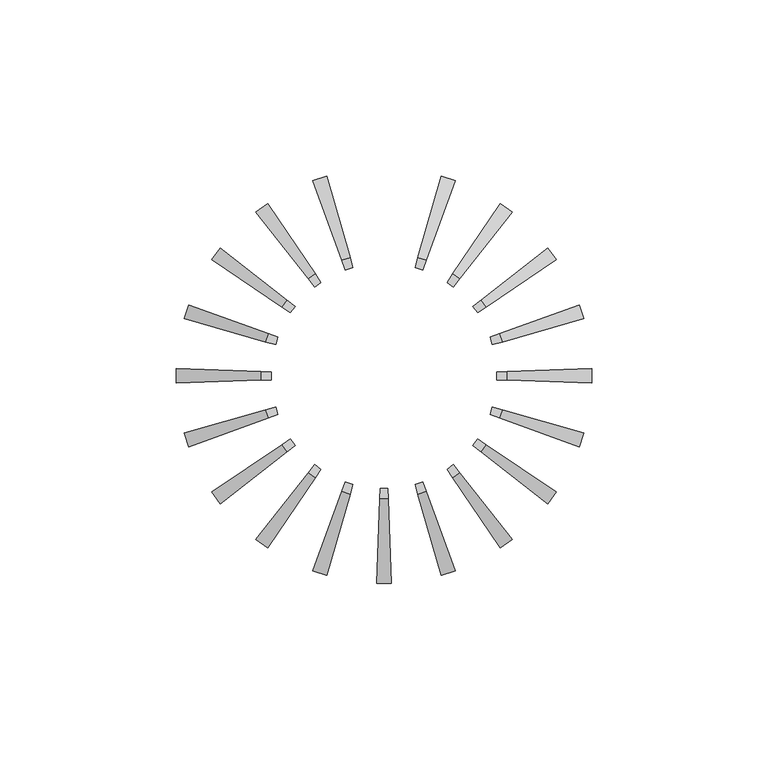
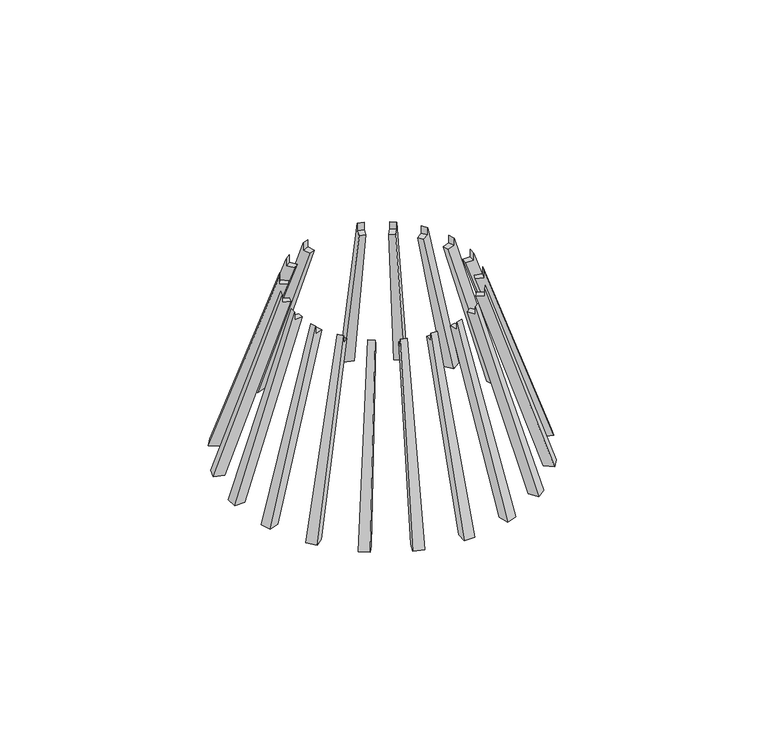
"""IFC4 building model written with IfcOpenShell, lengths in millimetres: pipe fitting geometry."""

from ifc_helpers import new_model, si_unit, frame, origin, place, context, project, spatial, polyline, circle_curve, source, transform, mapped, element, save
from ifc_brep_helpers import plane_surface, revolved_surface, advanced_brep


def pipe_fitting_d5c03c71(model_context):
    return source(origin(), model_context, "Body", "AdvancedBrep", [
        advanced_brep(
        [(20.1791885, 55.4418646, 0.0), (11.970705, 32.8892417, 71.0), (11.970705, 32.8892417, 68.0), (10.9494618, 30.083399, 68.0), (18.8111079, 51.6830941, 0.0), (16.262604, 56.7144401, 0.0), (15.1600546, 52.8693933, 0.0), (8.8242776, 30.7739132, 68.0), (9.6473075, 33.6441594, 68.0), (9.6473075, 33.6441594, 71.0)],
        [
            (0, 1),
            (1, 2),
            (2, 3),
            (3, 4),
            (4, 0),
            (5, 6),
            (6, 7),
            (7, 8),
            (8, 9),
            (9, 5),
            (9, 1, circle_curve(frame((0.0, 0.0, 71.0), z_axis=(0.0, 0.0, -1.0), x_axis=(0.3420201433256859, 0.9396926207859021, 0.0)), 35.0)),
            (0, 5, circle_curve(frame((0.0, 0.0, 0.0), z_axis=(0.0, 0.0, 1.0), x_axis=(0.3420201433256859, 0.9396926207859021, 0.0)), 59.0)),
            (8, 2, circle_curve(frame((0.0, 0.0, 68.0), z_axis=(0.0, 0.0, -1.0), x_axis=(0.3420201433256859, 0.9396926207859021, 0.0)), 35.0)),
            (7, 3, circle_curve(frame((0.0, 0.0, 68.0), z_axis=(0.0, 0.0, -1.0), x_axis=(0.3420201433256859, 0.9396926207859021, 0.0)), 32.0140845)),
            (6, 4, circle_curve(frame((0.0, 0.0, 0.0), z_axis=(0.0, 0.0, -1.0), x_axis=(0.3420201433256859, 0.9396926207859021, 0.0)), 55.0)),
        ],
        [
            plane_surface(frame((20.1791885, 55.4418646, 0.0), z_axis=(0.9396926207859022, -0.342020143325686, 0.0), x_axis=(0.0, 0.0, 1.0))),
            plane_surface(frame((16.262604, 56.7144401, 0.0), z_axis=(-0.9612616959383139, 0.2756373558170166, 0.0), x_axis=(0.0, 0.0, 1.0))),
            revolved_surface(polyline([(20.1791885, 55.4418646, 0.0), (11.970705, 32.8892417, 71.0)]), (0.0, 0.0, 0.0), (0.0, 0.0, 1.0)),
            revolved_surface(polyline([(11.970705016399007, 32.88924172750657, 71.0), (11.970705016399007, 32.88924172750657, 68.0)]), (0.0, 0.0, 0.0), (0.0, 0.0, 1.0)),
            plane_surface(frame((0.0, 0.0, 68.0), z_axis=(0.0, 0.0, 1.0000000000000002), x_axis=(0.342020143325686, 0.9396926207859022, 0.0))),
            revolved_surface(polyline([(10.9494618, 30.083399, 68.0), (18.8111079, 51.6830941, 0.0)]), (0.0, 0.0, 0.0), (0.0, 0.0, 1.0)),
            plane_surface(frame((0.0, 0.0, 0.0), z_axis=(0.0, 0.0, -1.0000000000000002), x_axis=(0.342020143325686, 0.9396926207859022, 0.0))),
        ],
        [
            (0, [[1, 2, 3, 4, 5]]),
            (1, [[6, 7, 8, 9, 10]]),
            (2, [[11, -1, 12, -10]]),
            (3, [[13, -2, -11, -9]]),
            (4, [[14, -3, -13, -8]]),
            (5, [[15, -4, -14, -7]]),
            (6, [[-12, -5, -15, -6]]),
        ],
    ),
        advanced_brep(
        [(36.324027, 46.4926345, 0.0), (21.5481516, 27.5803764, 71.0), (21.5481516, 27.5803764, 68.0), (19.7098385, 25.2274429, 68.0), (33.8613811, 43.3405914, 0.0), (32.9923813, 48.9132168, 0.0), (30.7556097, 45.5970665, 0.0), (17.9020489, 26.5408789, 68.0), (19.5717516, 29.016315, 68.0), (19.5717516, 29.016315, 71.0)],
        [
            (0, 1),
            (1, 2),
            (2, 3),
            (3, 4),
            (4, 0),
            (5, 6),
            (6, 7),
            (7, 8),
            (8, 9),
            (9, 5),
            (9, 1, circle_curve(frame((0.0, 0.0, 71.0), z_axis=(0.0, 0.0, -1.0), x_axis=(0.6156614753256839, 0.7880107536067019, 0.0)), 35.0)),
            (0, 5, circle_curve(frame((0.0, 0.0, 0.0), z_axis=(0.0, 0.0, 1.0), x_axis=(0.6156614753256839, 0.7880107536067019, 0.0)), 59.0)),
            (8, 2, circle_curve(frame((0.0, 0.0, 68.0), z_axis=(0.0, 0.0, -1.0), x_axis=(0.6156614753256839, 0.7880107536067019, 0.0)), 35.0)),
            (7, 3, circle_curve(frame((0.0, 0.0, 68.0), z_axis=(0.0, 0.0, -1.0), x_axis=(0.6156614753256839, 0.7880107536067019, 0.0)), 32.0140845)),
            (6, 4, circle_curve(frame((0.0, 0.0, 0.0), z_axis=(0.0, 0.0, -1.0), x_axis=(0.6156614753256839, 0.7880107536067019, 0.0)), 55.0)),
        ],
        [
            plane_surface(frame((36.324027, 46.4926345, 0.0), z_axis=(0.7880107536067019, -0.6156614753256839, 0.0), x_axis=(0.0, 0.0, 1.0))),
            plane_surface(frame((32.9923813, 48.9132168, 0.0), z_axis=(-0.8290375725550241, 0.559192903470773, 0.0), x_axis=(0.0, 0.0, 1.0))),
            revolved_surface(polyline([(36.324027, 46.4926345, 0.0), (21.5481516, 27.5803764, 71.0)]), (0.0, 0.0, 0.0), (0.0, 0.0, 1.0)),
            revolved_surface(polyline([(21.548151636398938, 27.580376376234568, 71.0), (21.548151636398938, 27.580376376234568, 68.0)]), (0.0, 0.0, 0.0), (0.0, 0.0, 1.0)),
            plane_surface(frame((0.0, 0.0, 68.0), z_axis=(0.0, 0.0, 1.0), x_axis=(0.6156614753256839, 0.7880107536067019, 0.0))),
            revolved_surface(polyline([(19.7098385, 25.2274429, 68.0), (33.8613811, 43.3405914, 0.0)]), (0.0, 0.0, 0.0), (0.0, 0.0, 1.0)),
            plane_surface(frame((0.0, 0.0, 0.0), z_axis=(0.0, 0.0, -1.0), x_axis=(0.6156614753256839, 0.7880107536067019, 0.0))),
        ],
        [
            (0, [[1, 2, 3, 4, 5]]),
            (1, [[6, 7, 8, 9, 10]]),
            (2, [[11, -1, 12, -10]]),
            (3, [[13, -2, -11, -9]]),
            (4, [[14, -3, -13, -8]]),
            (5, [[15, -4, -14, -7]]),
            (6, [[-12, -5, -15, -6]]),
        ],
    ),
        advanced_brep(
        [(48.9132168, 32.9923813, 0.0), (29.016315, 19.5717516, 71.0), (29.016315, 19.5717516, 68.0), (26.5408789, 17.9020489, 68.0), (45.5970665, 30.7556097, 0.0), (46.4926345, 36.324027, 0.0), (43.3405914, 33.8613811, 0.0), (25.2274429, 19.7098385, 68.0), (27.5803764, 21.5481516, 68.0), (27.5803764, 21.5481516, 71.0)],
        [
            (0, 1),
            (1, 2),
            (2, 3),
            (3, 4),
            (4, 0),
            (5, 6),
            (6, 7),
            (7, 8),
            (8, 9),
            (9, 5),
            (9, 1, circle_curve(frame((0.0, 0.0, 71.0), z_axis=(0.0, 0.0, -1.0), x_axis=(0.8290375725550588, 0.5591929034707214, 0.0)), 35.0)),
            (0, 5, circle_curve(frame((0.0, 0.0, 0.0), z_axis=(0.0, 0.0, 1.0), x_axis=(0.8290375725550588, 0.5591929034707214, 0.0)), 59.0)),
            (8, 2, circle_curve(frame((0.0, 0.0, 68.0), z_axis=(0.0, 0.0, -1.0), x_axis=(0.8290375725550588, 0.5591929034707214, 0.0)), 35.0)),
            (7, 3, circle_curve(frame((0.0, 0.0, 68.0), z_axis=(0.0, 0.0, -1.0), x_axis=(0.8290375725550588, 0.5591929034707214, 0.0)), 32.0140845)),
            (6, 4, circle_curve(frame((0.0, 0.0, 0.0), z_axis=(0.0, 0.0, -1.0), x_axis=(0.8290375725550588, 0.5591929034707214, 0.0)), 55.0)),
        ],
        [
            plane_surface(frame((48.9132168, 32.9923813, 0.0), z_axis=(0.5591929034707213, -0.8290375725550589, 0.0), x_axis=(0.0, 0.0, 1.0))),
            plane_surface(frame((46.4926345, 36.324027, 0.0), z_axis=(-0.6156614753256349, 0.7880107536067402, 0.0), x_axis=(0.0, 0.0, 1.0))),
            revolved_surface(polyline([(48.9132168, 32.9923813, 0.0), (29.016315, 19.5717516, 71.0)]), (0.0, 0.0, 0.0), (0.0, 0.0, 1.0)),
            revolved_surface(polyline([(29.01631503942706, 19.571751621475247, 71.0), (29.01631503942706, 19.571751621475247, 68.0)]), (0.0, 0.0, 0.0), (0.0, 0.0, 1.0)),
            plane_surface(frame((0.0, 0.0, 68.0), z_axis=(0.0, 0.0, 1.0000000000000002), x_axis=(0.8290375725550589, 0.5591929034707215, 0.0))),
            revolved_surface(polyline([(26.5408789, 17.9020489, 68.0), (45.5970665, 30.7556097, 0.0)]), (0.0, 0.0, 0.0), (0.0, 0.0, 1.0)),
            plane_surface(frame((0.0, 0.0, 0.0), z_axis=(0.0, 0.0, -1.0000000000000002), x_axis=(0.8290375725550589, 0.5591929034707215, 0.0))),
        ],
        [
            (0, [[1, 2, 3, 4, 5]]),
            (1, [[6, 7, 8, 9, 10]]),
            (2, [[11, -1, 12, -10]]),
            (3, [[13, -2, -11, -9]]),
            (4, [[14, -3, -13, -8]]),
            (5, [[15, -4, -14, -7]]),
            (6, [[-12, -5, -15, -6]]),
        ],
    ),
        advanced_brep(
        [(56.7144401, 16.262604, 0.0), (33.6441594, 9.6473075, 71.0), (33.6441594, 9.6473075, 68.0), (30.7739132, 8.8242776, 68.0), (52.8693933, 15.1600546, 0.0), (55.4418646, 20.1791885, 0.0), (51.6830941, 18.8111079, 0.0), (30.083399, 10.9494618, 68.0), (32.8892417, 11.970705, 68.0), (32.8892417, 11.970705, 71.0)],
        [
            (0, 1),
            (1, 2),
            (2, 3),
            (3, 4),
            (4, 0),
            (5, 6),
            (6, 7),
            (7, 8),
            (8, 9),
            (9, 5),
            (9, 1, circle_curve(frame((0.0, 0.0, 71.0), z_axis=(0.0, 0.0, -1.0), x_axis=(0.9612616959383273, 0.2756373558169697, 0.0)), 35.0)),
            (0, 5, circle_curve(frame((0.0, 0.0, 0.0), z_axis=(0.0, 0.0, 1.0), x_axis=(0.9612616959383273, 0.2756373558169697, 0.0)), 59.0)),
            (8, 2, circle_curve(frame((0.0, 0.0, 68.0), z_axis=(0.0, 0.0, -1.0), x_axis=(0.9612616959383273, 0.2756373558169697, 0.0)), 35.0)),
            (7, 3, circle_curve(frame((0.0, 0.0, 68.0), z_axis=(0.0, 0.0, -1.0), x_axis=(0.9612616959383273, 0.2756373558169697, 0.0)), 32.0140845)),
            (6, 4, circle_curve(frame((0.0, 0.0, 0.0), z_axis=(0.0, 0.0, -1.0), x_axis=(0.9612616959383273, 0.2756373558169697, 0.0)), 55.0)),
        ],
        [
            plane_surface(frame((56.7144401, 16.262604, 0.0), z_axis=(0.2756373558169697, -0.9612616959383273, 0.0), x_axis=(0.0, 0.0, 1.0))),
            plane_surface(frame((55.4418646, 20.1791885, 0.0), z_axis=(-0.3420201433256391, 0.9396926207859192, 0.0), x_axis=(0.0, 0.0, 1.0))),
            revolved_surface(polyline([(56.7144401, 16.262604, 0.0), (33.6441594, 9.6473075, 71.0)]), (0.0, 0.0, 0.0), (0.0, 0.0, 1.0)),
            revolved_surface(polyline([(33.64415935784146, 9.647307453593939, 71.0), (33.64415935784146, 9.647307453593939, 68.0)]), (0.0, 0.0, 0.0), (0.0, 0.0, 1.0)),
            plane_surface(frame((0.0, 0.0, 68.0), z_axis=(0.0, 0.0, 1.0), x_axis=(0.9612616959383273, 0.2756373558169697, 0.0))),
            revolved_surface(polyline([(30.7739132, 8.8242776, 68.0), (52.8693933, 15.1600546, 0.0)]), (0.0, 0.0, 0.0), (0.0, 0.0, 1.0)),
            plane_surface(frame((0.0, 0.0, 0.0), z_axis=(0.0, 0.0, -1.0), x_axis=(0.9612616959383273, 0.2756373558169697, 0.0))),
        ],
        [
            (0, [[1, 2, 3, 4, 5]]),
            (1, [[6, 7, 8, 9, 10]]),
            (2, [[11, -1, 12, -10]]),
            (3, [[13, -2, -11, -9]]),
            (4, [[14, -3, -13, -8]]),
            (5, [[15, -4, -14, -7]]),
            (6, [[-12, -5, -15, -6]]),
        ],
    ),
        advanced_brep(
        [(58.9640588, -2.0590703, 0.0), (34.9786789, -1.2214824, 71.0), (34.9786789, -1.2214824, 68.0), (31.9945824, -1.1172754, 68.0), (54.9664955, -1.9194723, 0.0), (58.9640588, 2.0590703, 0.0), (54.9664955, 1.9194723, 0.0), (31.9945824, 1.1172754, 68.0), (34.9786789, 1.2214824, 68.0), (34.9786789, 1.2214824, 71.0)],
        [
            (0, 1),
            (1, 2),
            (2, 3),
            (3, 4),
            (4, 0),
            (5, 6),
            (6, 7),
            (7, 8),
            (8, 9),
            (9, 5),
            (9, 1, circle_curve(frame((0.0, 0.0, 71.0), z_axis=(0.0, 0.0, -1.0), x_axis=(0.9993908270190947, -0.034899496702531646, 0.0)), 35.0)),
            (0, 5, circle_curve(frame((0.0, 0.0, 0.0), z_axis=(0.0, 0.0, 1.0), x_axis=(0.9993908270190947, -0.034899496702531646, 0.0)), 59.0)),
            (8, 2, circle_curve(frame((0.0, 0.0, 68.0), z_axis=(0.0, 0.0, -1.0), x_axis=(0.9993908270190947, -0.034899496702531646, 0.0)), 35.0)),
            (7, 3, circle_curve(frame((0.0, 0.0, 68.0), z_axis=(0.0, 0.0, -1.0), x_axis=(0.9993908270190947, -0.034899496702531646, 0.0)), 32.0140845)),
            (6, 4, circle_curve(frame((0.0, 0.0, 0.0), z_axis=(0.0, 0.0, -1.0), x_axis=(0.9993908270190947, -0.034899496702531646, 0.0)), 55.0)),
        ],
        [
            plane_surface(frame((58.9640588, -2.0590703, 0.0), z_axis=(-0.034899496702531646, -0.9993908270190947, 0.0), x_axis=(0.0, 0.0, 1.0))),
            plane_surface(frame((58.9640588, 2.0590703, 0.0), z_axis=(-0.034899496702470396, 0.9993908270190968, 0.0), x_axis=(0.0, 0.0, 1.0))),
            revolved_surface(polyline([(58.9640588, -2.0590703, 0.0), (34.9786789, -1.2214824, 71.0)]), (0.0, 0.0, 0.0), (0.0, 0.0, 1.0)),
            revolved_surface(polyline([(34.978678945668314, -1.2214823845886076, 71.0), (34.978678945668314, -1.2214823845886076, 68.0)]), (0.0, 0.0, 0.0), (0.0, 0.0, 1.0)),
            plane_surface(frame((0.0, 0.0, 68.0), z_axis=(0.0, 0.0, 1.0), x_axis=(0.9993908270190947, -0.034899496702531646, 0.0))),
            revolved_surface(polyline([(31.9945824, -1.1172754, 68.0), (54.9664955, -1.9194723, 0.0)]), (0.0, 0.0, 0.0), (0.0, 0.0, 1.0)),
            plane_surface(frame((0.0, 0.0, 0.0), z_axis=(0.0, 0.0, -1.0), x_axis=(0.9993908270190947, -0.034899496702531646, 0.0))),
        ],
        [
            (0, [[1, 2, 3, 4, 5]]),
            (1, [[6, 7, 8, 9, 10]]),
            (2, [[11, -1, 12, -10]]),
            (3, [[13, -2, -11, -9]]),
            (4, [[14, -3, -13, -8]]),
            (5, [[15, -4, -14, -7]]),
            (6, [[-12, -5, -15, -6]]),
        ],
    ),
        advanced_brep(
        [(55.4418646, -20.1791885, 0.0), (32.8892417, -11.970705, 71.0), (32.8892417, -11.970705, 68.0), (30.083399, -10.9494618, 68.0), (51.6830941, -18.8111079, 0.0), (56.7144401, -16.262604, 0.0), (52.8693933, -15.1600546, 0.0), (30.7739132, -8.8242776, 68.0), (33.6441594, -9.6473075, 68.0), (33.6441594, -9.6473075, 71.0)],
        [
            (0, 1),
            (1, 2),
            (2, 3),
            (3, 4),
            (4, 0),
            (5, 6),
            (6, 7),
            (7, 8),
            (8, 9),
            (9, 5),
            (9, 1, circle_curve(frame((0.0, 0.0, 71.0), z_axis=(0.0, 0.0, -1.0), x_axis=(0.9396926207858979, -0.3420201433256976, 0.0)), 35.0)),
            (0, 5, circle_curve(frame((0.0, 0.0, 0.0), z_axis=(0.0, 0.0, 1.0), x_axis=(0.9396926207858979, -0.3420201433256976, 0.0)), 59.0)),
            (8, 2, circle_curve(frame((0.0, 0.0, 68.0), z_axis=(0.0, 0.0, -1.0), x_axis=(0.9396926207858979, -0.3420201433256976, 0.0)), 35.0)),
            (7, 3, circle_curve(frame((0.0, 0.0, 68.0), z_axis=(0.0, 0.0, -1.0), x_axis=(0.9396926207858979, -0.3420201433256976, 0.0)), 32.0140845)),
            (6, 4, circle_curve(frame((0.0, 0.0, 0.0), z_axis=(0.0, 0.0, -1.0), x_axis=(0.9396926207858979, -0.3420201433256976, 0.0)), 55.0)),
        ],
        [
            plane_surface(frame((55.4418646, -20.1791885, 0.0), z_axis=(-0.3420201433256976, -0.939692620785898, 0.0), x_axis=(0.0, 0.0, 1.0))),
            plane_surface(frame((56.7144401, -16.262604, 0.0), z_axis=(0.2756373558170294, 0.9612616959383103, 0.0), x_axis=(0.0, 0.0, 1.0))),
            revolved_surface(polyline([(55.4418646, -20.1791885, 0.0), (32.8892417, -11.970705, 71.0)]), (0.0, 0.0, 0.0), (0.0, 0.0, 1.0)),
            revolved_surface(polyline([(32.88924172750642, -11.970705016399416, 71.0), (32.88924172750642, -11.970705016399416, 68.0)]), (0.0, 0.0, 0.0), (0.0, 0.0, 1.0)),
            plane_surface(frame((0.0, 0.0, 68.0), z_axis=(0.0, 0.0, 1.0), x_axis=(0.9396926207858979, -0.3420201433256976, 0.0))),
            revolved_surface(polyline([(30.083399, -10.9494618, 68.0), (51.6830941, -18.8111079, 0.0)]), (0.0, 0.0, 0.0), (0.0, 0.0, 1.0)),
            plane_surface(frame((0.0, 0.0, 0.0), z_axis=(0.0, 0.0, -1.0), x_axis=(0.9396926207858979, -0.3420201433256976, 0.0))),
        ],
        [
            (0, [[1, 2, 3, 4, 5]]),
            (1, [[6, 7, 8, 9, 10]]),
            (2, [[11, -1, 12, -10]]),
            (3, [[13, -2, -11, -9]]),
            (4, [[14, -3, -13, -8]]),
            (5, [[15, -4, -14, -7]]),
            (6, [[-12, -5, -15, -6]]),
        ],
    ),
        advanced_brep(
        [(46.4926345, -36.324027, 0.0), (27.5803764, -21.5481516, 71.0), (27.5803764, -21.5481516, 68.0), (25.2274429, -19.7098385, 68.0), (43.3405914, -33.8613811, 0.0), (48.9132168, -32.9923813, 0.0), (45.5970665, -30.7556097, 0.0), (26.5408789, -17.9020489, 68.0), (29.016315, -19.5717516, 68.0), (29.016315, -19.5717516, 71.0)],
        [
            (0, 1),
            (1, 2),
            (2, 3),
            (3, 4),
            (4, 0),
            (5, 6),
            (6, 7),
            (7, 8),
            (8, 9),
            (9, 5),
            (9, 1, circle_curve(frame((0.0, 0.0, 71.0), z_axis=(0.0, 0.0, -1.0), x_axis=(0.7880107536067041, -0.615661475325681, 0.0)), 35.0)),
            (0, 5, circle_curve(frame((0.0, 0.0, 0.0), z_axis=(0.0, 0.0, 1.0), x_axis=(0.7880107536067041, -0.615661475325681, 0.0)), 59.0)),
            (8, 2, circle_curve(frame((0.0, 0.0, 68.0), z_axis=(0.0, 0.0, -1.0), x_axis=(0.7880107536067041, -0.615661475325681, 0.0)), 35.0)),
            (7, 3, circle_curve(frame((0.0, 0.0, 68.0), z_axis=(0.0, 0.0, -1.0), x_axis=(0.7880107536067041, -0.615661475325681, 0.0)), 32.0140845)),
            (6, 4, circle_curve(frame((0.0, 0.0, 0.0), z_axis=(0.0, 0.0, -1.0), x_axis=(0.7880107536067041, -0.615661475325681, 0.0)), 55.0)),
        ],
        [
            plane_surface(frame((46.4926345, -36.324027, 0.0), z_axis=(-0.615661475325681, -0.7880107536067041, 0.0), x_axis=(0.0, 0.0, 1.0))),
            plane_surface(frame((48.9132168, -32.9923813, 0.0), z_axis=(0.5591929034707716, 0.8290375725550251, 0.0), x_axis=(0.0, 0.0, 1.0))),
            revolved_surface(polyline([(46.4926345, -36.324027, 0.0), (27.5803764, -21.5481516, 71.0)]), (0.0, 0.0, 0.0), (0.0, 0.0, 1.0)),
            revolved_surface(polyline([(27.580376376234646, -21.54815163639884, 71.0), (27.580376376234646, -21.54815163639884, 68.0)]), (0.0, 0.0, 0.0), (0.0, 0.0, 1.0)),
            plane_surface(frame((0.0, 0.0, 68.0), z_axis=(0.0, 0.0, 1.0), x_axis=(0.7880107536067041, -0.615661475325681, 0.0))),
            revolved_surface(polyline([(25.2274429, -19.7098385, 68.0), (43.3405914, -33.8613811, 0.0)]), (0.0, 0.0, 0.0), (0.0, 0.0, 1.0)),
            plane_surface(frame((0.0, 0.0, 0.0), z_axis=(0.0, 0.0, -1.0), x_axis=(0.7880107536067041, -0.615661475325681, 0.0))),
        ],
        [
            (0, [[1, 2, 3, 4, 5]]),
            (1, [[6, 7, 8, 9, 10]]),
            (2, [[11, -1, 12, -10]]),
            (3, [[13, -2, -11, -9]]),
            (4, [[14, -3, -13, -8]]),
            (5, [[15, -4, -14, -7]]),
            (6, [[-12, -5, -15, -6]]),
        ],
    ),
        advanced_brep(
        [(32.9923813, -48.9132168, 0.0), (19.5717516, -29.016315, 71.0), (19.5717516, -29.016315, 68.0), (17.9020489, -26.5408789, 68.0), (30.7556097, -45.5970665, 0.0), (36.324027, -46.4926345, 0.0), (33.8613811, -43.3405914, 0.0), (19.7098385, -25.2274429, 68.0), (21.5481516, -27.5803764, 68.0), (21.5481516, -27.5803764, 71.0)],
        [
            (0, 1),
            (1, 2),
            (2, 3),
            (3, 4),
            (4, 0),
            (5, 6),
            (6, 7),
            (7, 8),
            (8, 9),
            (9, 5),
            (9, 1, circle_curve(frame((0.0, 0.0, 71.0), z_axis=(0.0, 0.0, -1.0), x_axis=(0.5591929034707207, -0.8290375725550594, 0.0)), 35.0)),
            (0, 5, circle_curve(frame((0.0, 0.0, 0.0), z_axis=(0.0, 0.0, 1.0), x_axis=(0.5591929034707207, -0.8290375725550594, 0.0)), 59.0)),
            (8, 2, circle_curve(frame((0.0, 0.0, 68.0), z_axis=(0.0, 0.0, -1.0), x_axis=(0.5591929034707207, -0.8290375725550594, 0.0)), 35.0)),
            (7, 3, circle_curve(frame((0.0, 0.0, 68.0), z_axis=(0.0, 0.0, -1.0), x_axis=(0.5591929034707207, -0.8290375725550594, 0.0)), 32.0140845)),
            (6, 4, circle_curve(frame((0.0, 0.0, 0.0), z_axis=(0.0, 0.0, -1.0), x_axis=(0.5591929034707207, -0.8290375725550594, 0.0)), 55.0)),
        ],
        [
            plane_surface(frame((32.9923813, -48.9132168, 0.0), z_axis=(-0.8290375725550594, -0.5591929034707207, 0.0), x_axis=(0.0, 0.0, 1.0))),
            plane_surface(frame((36.324027, -46.4926345, 0.0), z_axis=(0.7880107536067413, 0.6156614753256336, 0.0), x_axis=(0.0, 0.0, 1.0))),
            revolved_surface(polyline([(32.9923813, -48.9132168, 0.0), (19.5717516, -29.016315, 71.0)]), (0.0, 0.0, 0.0), (0.0, 0.0, 1.0)),
            revolved_surface(polyline([(19.571751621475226, -29.016315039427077, 71.0), (19.571751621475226, -29.016315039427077, 68.0)]), (0.0, 0.0, 0.0), (0.0, 0.0, 1.0)),
            plane_surface(frame((0.0, 0.0, 68.0), z_axis=(0.0, 0.0, 1.0000000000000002), x_axis=(0.5591929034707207, -0.8290375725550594, 0.0))),
            revolved_surface(polyline([(17.9020489, -26.5408789, 68.0), (30.7556097, -45.5970665, 0.0)]), (0.0, 0.0, 0.0), (0.0, 0.0, 1.0)),
            plane_surface(frame((0.0, 0.0, 0.0), z_axis=(0.0, 0.0, -1.0000000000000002), x_axis=(0.5591929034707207, -0.8290375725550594, 0.0))),
        ],
        [
            (0, [[1, 2, 3, 4, 5]]),
            (1, [[6, 7, 8, 9, 10]]),
            (2, [[11, -1, 12, -10]]),
            (3, [[13, -2, -11, -9]]),
            (4, [[14, -3, -13, -8]]),
            (5, [[15, -4, -14, -7]]),
            (6, [[-12, -5, -15, -6]]),
        ],
    ),
        advanced_brep(
        [(16.262604, -56.7144401, 0.0), (9.6473075, -33.6441594, 71.0), (9.6473075, -33.6441594, 68.0), (8.8242776, -30.7739132, 68.0), (15.1600546, -52.8693933, 0.0), (20.1791885, -55.4418646, 0.0), (18.8111079, -51.6830941, 0.0), (10.9494618, -30.083399, 68.0), (11.970705, -32.8892417, 68.0), (11.970705, -32.8892417, 71.0)],
        [
            (0, 1),
            (1, 2),
            (2, 3),
            (3, 4),
            (4, 0),
            (5, 6),
            (6, 7),
            (7, 8),
            (8, 9),
            (9, 5),
            (9, 1, circle_curve(frame((0.0, 0.0, 71.0), z_axis=(0.0, 0.0, -1.0), x_axis=(0.2756373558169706, -0.9612616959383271, 0.0)), 35.0)),
            (0, 5, circle_curve(frame((0.0, 0.0, 0.0), z_axis=(0.0, 0.0, 1.0), x_axis=(0.2756373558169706, -0.9612616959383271, 0.0)), 59.0)),
            (8, 2, circle_curve(frame((0.0, 0.0, 68.0), z_axis=(0.0, 0.0, -1.0), x_axis=(0.2756373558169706, -0.9612616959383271, 0.0)), 35.0)),
            (7, 3, circle_curve(frame((0.0, 0.0, 68.0), z_axis=(0.0, 0.0, -1.0), x_axis=(0.2756373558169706, -0.9612616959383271, 0.0)), 32.0140845)),
            (6, 4, circle_curve(frame((0.0, 0.0, 0.0), z_axis=(0.0, 0.0, -1.0), x_axis=(0.2756373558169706, -0.9612616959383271, 0.0)), 55.0)),
        ],
        [
            plane_surface(frame((16.262604, -56.7144401, 0.0), z_axis=(-0.9612616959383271, -0.2756373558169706, 0.0), x_axis=(0.0, 0.0, 1.0))),
            plane_surface(frame((20.1791885, -55.4418646, 0.0), z_axis=(0.9396926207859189, 0.34202014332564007, 0.0), x_axis=(0.0, 0.0, 1.0))),
            revolved_surface(polyline([(16.262604, -56.7144401, 0.0), (9.6473075, -33.6441594, 71.0)]), (0.0, 0.0, 0.0), (0.0, 0.0, 1.0)),
            revolved_surface(polyline([(9.647307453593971, -33.644159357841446, 71.0), (9.647307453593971, -33.644159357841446, 68.0)]), (0.0, 0.0, 0.0), (0.0, 0.0, 1.0)),
            plane_surface(frame((0.0, 0.0, 68.0), z_axis=(0.0, 0.0, 1.0), x_axis=(0.2756373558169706, -0.9612616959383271, 0.0))),
            revolved_surface(polyline([(8.8242776, -30.7739132, 68.0), (15.1600546, -52.8693933, 0.0)]), (0.0, 0.0, 0.0), (0.0, 0.0, 1.0)),
            plane_surface(frame((0.0, 0.0, 0.0), z_axis=(0.0, 0.0, -1.0), x_axis=(0.2756373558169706, -0.9612616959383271, 0.0))),
        ],
        [
            (0, [[1, 2, 3, 4, 5]]),
            (1, [[6, 7, 8, 9, 10]]),
            (2, [[11, -1, 12, -10]]),
            (3, [[13, -2, -11, -9]]),
            (4, [[14, -3, -13, -8]]),
            (5, [[15, -4, -14, -7]]),
            (6, [[-12, -5, -15, -6]]),
        ],
    ),
        advanced_brep(
        [(-2.0590703, -58.9640588, 0.0), (-1.2214824, -34.9786789, 71.0), (-1.2214824, -34.9786789, 68.0), (-1.1172754, -31.9945824, 68.0), (-1.9194723, -54.9664955, 0.0), (2.0590703, -58.9640588, 0.0), (1.9194723, -54.9664955, 0.0), (1.1172754, -31.9945824, 68.0), (1.2214824, -34.9786789, 68.0), (1.2214824, -34.9786789, 71.0)],
        [
            (0, 1),
            (1, 2),
            (2, 3),
            (3, 4),
            (4, 0),
            (5, 6),
            (6, 7),
            (7, 8),
            (8, 9),
            (9, 5),
            (9, 1, circle_curve(frame((0.0, 0.0, 71.0), z_axis=(0.0, 0.0, -1.0), x_axis=(-0.03489949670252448, -0.9993908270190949, 0.0)), 35.0)),
            (0, 5, circle_curve(frame((0.0, 0.0, 0.0), z_axis=(0.0, 0.0, 1.0), x_axis=(-0.03489949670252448, -0.9993908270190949, 0.0)), 59.0)),
            (8, 2, circle_curve(frame((0.0, 0.0, 68.0), z_axis=(0.0, 0.0, -1.0), x_axis=(-0.03489949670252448, -0.9993908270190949, 0.0)), 35.0)),
            (7, 3, circle_curve(frame((0.0, 0.0, 68.0), z_axis=(0.0, 0.0, -1.0), x_axis=(-0.03489949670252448, -0.9993908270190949, 0.0)), 32.0140845)),
            (6, 4, circle_curve(frame((0.0, 0.0, 0.0), z_axis=(0.0, 0.0, -1.0), x_axis=(-0.03489949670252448, -0.9993908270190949, 0.0)), 55.0)),
        ],
        [
            plane_surface(frame((-2.0590703, -58.9640588, 0.0), z_axis=(-0.9993908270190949, 0.03489949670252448, 0.0), x_axis=(0.0, 0.0, 1.0))),
            plane_surface(frame((2.0590703, -58.9640588, 0.0), z_axis=(0.9993908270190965, 0.034899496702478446, 0.0), x_axis=(0.0, 0.0, 1.0))),
            revolved_surface(polyline([(-2.0590703, -58.9640588, 0.0), (-1.2214824, -34.9786789, 71.0)]), (0.0, 0.0, 0.0), (0.0, 0.0, 1.0)),
            revolved_surface(polyline([(-1.2214823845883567, -34.97867894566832, 71.0), (-1.2214823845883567, -34.97867894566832, 68.0)]), (0.0, 0.0, 0.0), (0.0, 0.0, 1.0)),
            plane_surface(frame((0.0, 0.0, 68.0), z_axis=(0.0, 0.0, 1.0), x_axis=(-0.03489949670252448, -0.9993908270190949, 0.0))),
            revolved_surface(polyline([(-1.1172754, -31.9945824, 68.0), (-1.9194723, -54.9664955, 0.0)]), (0.0, 0.0, 0.0), (0.0, 0.0, 1.0)),
            plane_surface(frame((0.0, 0.0, 0.0), z_axis=(0.0, 0.0, -1.0), x_axis=(-0.03489949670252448, -0.9993908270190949, 0.0))),
        ],
        [
            (0, [[1, 2, 3, 4, 5]]),
            (1, [[6, 7, 8, 9, 10]]),
            (2, [[11, -1, 12, -10]]),
            (3, [[13, -2, -11, -9]]),
            (4, [[14, -3, -13, -8]]),
            (5, [[15, -4, -14, -7]]),
            (6, [[-12, -5, -15, -6]]),
        ],
    ),
        advanced_brep(
        [(-20.1791885, -55.4418646, 0.0), (-11.970705, -32.8892417, 71.0), (-11.970705, -32.8892417, 68.0), (-10.9494618, -30.083399, 68.0), (-18.8111079, -51.6830941, 0.0), (-16.262604, -56.7144401, 0.0), (-15.1600546, -52.8693933, 0.0), (-8.8242776, -30.7739132, 68.0), (-9.6473075, -33.6441594, 68.0), (-9.6473075, -33.6441594, 71.0)],
        [
            (0, 1),
            (1, 2),
            (2, 3),
            (3, 4),
            (4, 0),
            (5, 6),
            (6, 7),
            (7, 8),
            (8, 9),
            (9, 5),
            (9, 1, circle_curve(frame((0.0, 0.0, 71.0), z_axis=(0.0, 0.0, -1.0), x_axis=(-0.34202014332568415, -0.9396926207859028, 0.0)), 35.0)),
            (0, 5, circle_curve(frame((0.0, 0.0, 0.0), z_axis=(0.0, 0.0, 1.0), x_axis=(-0.34202014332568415, -0.9396926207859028, 0.0)), 59.0)),
            (8, 2, circle_curve(frame((0.0, 0.0, 68.0), z_axis=(0.0, 0.0, -1.0), x_axis=(-0.34202014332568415, -0.9396926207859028, 0.0)), 35.0)),
            (7, 3, circle_curve(frame((0.0, 0.0, 68.0), z_axis=(0.0, 0.0, -1.0), x_axis=(-0.34202014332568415, -0.9396926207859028, 0.0)), 32.0140845)),
            (6, 4, circle_curve(frame((0.0, 0.0, 0.0), z_axis=(0.0, 0.0, -1.0), x_axis=(-0.34202014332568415, -0.9396926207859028, 0.0)), 55.0)),
        ],
        [
            plane_surface(frame((-20.1791885, -55.4418646, 0.0), z_axis=(-0.9396926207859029, 0.34202014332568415, 0.0), x_axis=(0.0, 0.0, 1.0))),
            plane_surface(frame((-16.262604, -56.7144401, 0.0), z_axis=(0.9612616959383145, -0.27563735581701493, 0.0), x_axis=(0.0, 0.0, 1.0))),
            revolved_surface(polyline([(-20.1791885, -55.4418646, 0.0), (-11.970705, -32.8892417, 71.0)]), (0.0, 0.0, 0.0), (0.0, 0.0, 1.0)),
            revolved_surface(polyline([(-11.970705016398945, -32.889241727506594, 71.0), (-11.970705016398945, -32.889241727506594, 68.0)]), (0.0, 0.0, 0.0), (0.0, 0.0, 1.0)),
            plane_surface(frame((0.0, 0.0, 68.0), z_axis=(0.0, 0.0, 1.0000000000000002), x_axis=(-0.3420201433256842, -0.9396926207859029, 0.0))),
            revolved_surface(polyline([(-10.9494618, -30.083399, 68.0), (-18.8111079, -51.6830941, 0.0)]), (0.0, 0.0, 0.0), (0.0, 0.0, 1.0)),
            plane_surface(frame((0.0, 0.0, 0.0), z_axis=(0.0, 0.0, -1.0000000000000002), x_axis=(-0.3420201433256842, -0.9396926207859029, 0.0))),
        ],
        [
            (0, [[1, 2, 3, 4, 5]]),
            (1, [[6, 7, 8, 9, 10]]),
            (2, [[11, -1, 12, -10]]),
            (3, [[13, -2, -11, -9]]),
            (4, [[14, -3, -13, -8]]),
            (5, [[15, -4, -14, -7]]),
            (6, [[-12, -5, -15, -6]]),
        ],
    ),
        advanced_brep(
        [(-36.324027, -46.4926345, 0.0), (-21.5481516, -27.5803764, 71.0), (-21.5481516, -27.5803764, 68.0), (-19.7098385, -25.2274429, 68.0), (-33.8613811, -43.3405914, 0.0), (-32.9923813, -48.9132168, 0.0), (-30.7556097, -45.5970665, 0.0), (-17.9020489, -26.5408789, 68.0), (-19.5717516, -29.016315, 68.0), (-19.5717516, -29.016315, 71.0)],
        [
            (0, 1),
            (1, 2),
            (2, 3),
            (3, 4),
            (4, 0),
            (5, 6),
            (6, 7),
            (7, 8),
            (8, 9),
            (9, 5),
            (9, 1, circle_curve(frame((0.0, 0.0, 71.0), z_axis=(0.0, 0.0, -1.0), x_axis=(-0.6156614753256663, -0.7880107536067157, 0.0)), 35.0)),
            (0, 5, circle_curve(frame((0.0, 0.0, 0.0), z_axis=(0.0, 0.0, 1.0), x_axis=(-0.6156614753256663, -0.7880107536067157, 0.0)), 59.0)),
            (8, 2, circle_curve(frame((0.0, 0.0, 68.0), z_axis=(0.0, 0.0, -1.0), x_axis=(-0.6156614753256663, -0.7880107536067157, 0.0)), 35.0)),
            (7, 3, circle_curve(frame((0.0, 0.0, 68.0), z_axis=(0.0, 0.0, -1.0), x_axis=(-0.6156614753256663, -0.7880107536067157, 0.0)), 32.0140845)),
            (6, 4, circle_curve(frame((0.0, 0.0, 0.0), z_axis=(0.0, 0.0, -1.0), x_axis=(-0.6156614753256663, -0.7880107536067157, 0.0)), 55.0)),
        ],
        [
            plane_surface(frame((-36.324027, -46.4926345, 0.0), z_axis=(-0.7880107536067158, 0.6156614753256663, 0.0), x_axis=(0.0, 0.0, 1.0))),
            plane_surface(frame((-32.9923813, -48.9132168, 0.0), z_axis=(0.8290375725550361, -0.5591929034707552, 0.0), x_axis=(0.0, 0.0, 1.0))),
            revolved_surface(polyline([(-36.324027, -46.4926345, 0.0), (-21.5481516, -27.5803764, 71.0)]), (0.0, 0.0, 0.0), (0.0, 0.0, 1.0)),
            revolved_surface(polyline([(-21.54815163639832, -27.580376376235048, 71.0), (-21.54815163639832, -27.580376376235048, 68.0)]), (0.0, 0.0, 0.0), (0.0, 0.0, 1.0)),
            plane_surface(frame((0.0, 0.0, 68.0), z_axis=(0.0, 0.0, 1.0), x_axis=(-0.6156614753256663, -0.7880107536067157, 0.0))),
            revolved_surface(polyline([(-19.7098385, -25.2274429, 68.0), (-33.8613811, -43.3405914, 0.0)]), (0.0, 0.0, 0.0), (0.0, 0.0, 1.0)),
            plane_surface(frame((0.0, 0.0, 0.0), z_axis=(0.0, 0.0, -1.0), x_axis=(-0.6156614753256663, -0.7880107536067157, 0.0))),
        ],
        [
            (0, [[1, 2, 3, 4, 5]]),
            (1, [[6, 7, 8, 9, 10]]),
            (2, [[11, -1, 12, -10]]),
            (3, [[13, -2, -11, -9]]),
            (4, [[14, -3, -13, -8]]),
            (5, [[15, -4, -14, -7]]),
            (6, [[-12, -5, -15, -6]]),
        ],
    ),
        advanced_brep(
        [(-48.9132168, -32.9923813, 0.0), (-29.016315, -19.5717516, 71.0), (-29.016315, -19.5717516, 68.0), (-26.5408789, -17.9020489, 68.0), (-45.5970665, -30.7556097, 0.0), (-46.4926345, -36.324027, 0.0), (-43.3405914, -33.8613811, 0.0), (-25.2274429, -19.7098385, 68.0), (-27.5803764, -21.5481516, 68.0), (-27.5803764, -21.5481516, 71.0)],
        [
            (0, 1),
            (1, 2),
            (2, 3),
            (3, 4),
            (4, 0),
            (5, 6),
            (6, 7),
            (7, 8),
            (8, 9),
            (9, 5),
            (9, 1, circle_curve(frame((0.0, 0.0, 71.0), z_axis=(0.0, 0.0, -1.0), x_axis=(-0.8290375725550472, -0.5591929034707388, 0.0)), 35.0)),
            (0, 5, circle_curve(frame((0.0, 0.0, 0.0), z_axis=(0.0, 0.0, 1.0), x_axis=(-0.8290375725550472, -0.5591929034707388, 0.0)), 59.0)),
            (8, 2, circle_curve(frame((0.0, 0.0, 68.0), z_axis=(0.0, 0.0, -1.0), x_axis=(-0.8290375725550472, -0.5591929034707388, 0.0)), 35.0)),
            (7, 3, circle_curve(frame((0.0, 0.0, 68.0), z_axis=(0.0, 0.0, -1.0), x_axis=(-0.8290375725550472, -0.5591929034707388, 0.0)), 32.0140845)),
            (6, 4, circle_curve(frame((0.0, 0.0, 0.0), z_axis=(0.0, 0.0, -1.0), x_axis=(-0.8290375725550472, -0.5591929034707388, 0.0)), 55.0)),
        ],
        [
            plane_surface(frame((-48.9132168, -32.9923813, 0.0), z_axis=(-0.5591929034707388, 0.8290375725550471, 0.0), x_axis=(0.0, 0.0, 1.0))),
            plane_surface(frame((-46.4926345, -36.324027, 0.0), z_axis=(0.6156614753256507, -0.7880107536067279, 0.0), x_axis=(0.0, 0.0, 1.0))),
            revolved_surface(polyline([(-48.9132168, -32.9923813, 0.0), (-29.016315, -19.5717516, 71.0)]), (0.0, 0.0, 0.0), (0.0, 0.0, 1.0)),
            revolved_surface(polyline([(-29.01631503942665, -19.57175162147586, 71.0), (-29.01631503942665, -19.57175162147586, 68.0)]), (0.0, 0.0, 0.0), (0.0, 0.0, 1.0)),
            plane_surface(frame((0.0, 0.0, 68.0), z_axis=(0.0, 0.0, 1.0), x_axis=(-0.8290375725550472, -0.5591929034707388, 0.0))),
            revolved_surface(polyline([(-26.5408789, -17.9020489, 68.0), (-45.5970665, -30.7556097, 0.0)]), (0.0, 0.0, 0.0), (0.0, 0.0, 1.0)),
            plane_surface(frame((0.0, 0.0, 0.0), z_axis=(0.0, 0.0, -1.0), x_axis=(-0.8290375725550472, -0.5591929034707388, 0.0))),
        ],
        [
            (0, [[1, 2, 3, 4, 5]]),
            (1, [[6, 7, 8, 9, 10]]),
            (2, [[11, -1, 12, -10]]),
            (3, [[13, -2, -11, -9]]),
            (4, [[14, -3, -13, -8]]),
            (5, [[15, -4, -14, -7]]),
            (6, [[-12, -5, -15, -6]]),
        ],
    ),
        advanced_brep(
        [(-56.7144401, -16.262604, 0.0), (-33.6441594, -9.6473075, 71.0), (-33.6441594, -9.6473075, 68.0), (-30.7739132, -8.8242776, 68.0), (-52.8693933, -15.1600546, 0.0), (-55.4418646, -20.1791885, 0.0), (-51.6830941, -18.8111079, 0.0), (-30.083399, -10.9494618, 68.0), (-32.8892417, -11.970705, 68.0), (-32.8892417, -11.970705, 71.0)],
        [
            (0, 1),
            (1, 2),
            (2, 3),
            (3, 4),
            (4, 0),
            (5, 6),
            (6, 7),
            (7, 8),
            (8, 9),
            (9, 5),
            (9, 1, circle_curve(frame((0.0, 0.0, 71.0), z_axis=(0.0, 0.0, -1.0), x_axis=(-0.9612616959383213, -0.2756373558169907, 0.0)), 35.0)),
            (0, 5, circle_curve(frame((0.0, 0.0, 0.0), z_axis=(0.0, 0.0, 1.0), x_axis=(-0.9612616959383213, -0.2756373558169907, 0.0)), 59.0)),
            (8, 2, circle_curve(frame((0.0, 0.0, 68.0), z_axis=(0.0, 0.0, -1.0), x_axis=(-0.9612616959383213, -0.2756373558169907, 0.0)), 35.0)),
            (7, 3, circle_curve(frame((0.0, 0.0, 68.0), z_axis=(0.0, 0.0, -1.0), x_axis=(-0.9612616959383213, -0.2756373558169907, 0.0)), 32.0140845)),
            (6, 4, circle_curve(frame((0.0, 0.0, 0.0), z_axis=(0.0, 0.0, -1.0), x_axis=(-0.9612616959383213, -0.2756373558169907, 0.0)), 55.0)),
        ],
        [
            plane_surface(frame((-56.7144401, -16.262604, 0.0), z_axis=(-0.2756373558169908, 0.9612616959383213, 0.0), x_axis=(0.0, 0.0, 1.0))),
            plane_surface(frame((-55.4418646, -20.1791885, 0.0), z_axis=(0.34202014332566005, -0.9396926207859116, 0.0), x_axis=(0.0, 0.0, 1.0))),
            revolved_surface(polyline([(-56.7144401, -16.262604, 0.0), (-33.6441594, -9.6473075, 71.0)]), (0.0, 0.0, 0.0), (0.0, 0.0, 1.0)),
            revolved_surface(polyline([(-33.64415935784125, -9.647307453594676, 71.0), (-33.64415935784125, -9.647307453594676, 68.0)]), (0.0, 0.0, 0.0), (0.0, 0.0, 1.0)),
            plane_surface(frame((0.0, 0.0, 68.0), z_axis=(0.0, 0.0, 1.0), x_axis=(-0.9612616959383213, -0.2756373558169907, 0.0))),
            revolved_surface(polyline([(-30.7739132, -8.8242776, 68.0), (-52.8693933, -15.1600546, 0.0)]), (0.0, 0.0, 0.0), (0.0, 0.0, 1.0)),
            plane_surface(frame((0.0, 0.0, 0.0), z_axis=(0.0, 0.0, -1.0), x_axis=(-0.9612616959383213, -0.2756373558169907, 0.0))),
        ],
        [
            (0, [[1, 2, 3, 4, 5]]),
            (1, [[6, 7, 8, 9, 10]]),
            (2, [[11, -1, 12, -10]]),
            (3, [[13, -2, -11, -9]]),
            (4, [[14, -3, -13, -8]]),
            (5, [[15, -4, -14, -7]]),
            (6, [[-12, -5, -15, -6]]),
        ],
    ),
        advanced_brep(
        [(-58.9640588, 2.0590703, 0.0), (-34.9786789, 1.2214824, 71.0), (-34.9786789, 1.2214824, 68.0), (-31.9945824, 1.1172754, 68.0), (-54.9664955, 1.9194723, 0.0), (-58.9640588, -2.0590703, 0.0), (-54.9664955, -1.9194723, 0.0), (-31.9945824, -1.1172754, 68.0), (-34.9786789, -1.2214824, 68.0), (-34.9786789, -1.2214824, 71.0)],
        [
            (0, 1),
            (1, 2),
            (2, 3),
            (3, 4),
            (4, 0),
            (5, 6),
            (6, 7),
            (7, 8),
            (8, 9),
            (9, 5),
            (9, 1, circle_curve(frame((0.0, 0.0, 71.0), z_axis=(0.0, 0.0, -1.0), x_axis=(-0.9993908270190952, 0.03489949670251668, 0.0)), 35.0)),
            (0, 5, circle_curve(frame((0.0, 0.0, 0.0), z_axis=(0.0, 0.0, 1.0), x_axis=(-0.9993908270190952, 0.03489949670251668, 0.0)), 59.0)),
            (8, 2, circle_curve(frame((0.0, 0.0, 68.0), z_axis=(0.0, 0.0, -1.0), x_axis=(-0.9993908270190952, 0.03489949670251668, 0.0)), 35.0)),
            (7, 3, circle_curve(frame((0.0, 0.0, 68.0), z_axis=(0.0, 0.0, -1.0), x_axis=(-0.9993908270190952, 0.03489949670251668, 0.0)), 32.0140845)),
            (6, 4, circle_curve(frame((0.0, 0.0, 0.0), z_axis=(0.0, 0.0, -1.0), x_axis=(-0.9993908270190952, 0.03489949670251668, 0.0)), 55.0)),
        ],
        [
            plane_surface(frame((-58.9640588, 2.0590703, 0.0), z_axis=(0.03489949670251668, 0.9993908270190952, 0.0), x_axis=(0.0, 0.0, 1.0))),
            plane_surface(frame((-58.9640588, -2.0590703, 0.0), z_axis=(0.034899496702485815, -0.9993908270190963, 0.0), x_axis=(0.0, 0.0, 1.0))),
            revolved_surface(polyline([(-58.9640588, 2.0590703, 0.0), (-34.9786789, 1.2214824, 71.0)]), (0.0, 0.0, 0.0), (0.0, 0.0, 1.0)),
            revolved_surface(polyline([(-34.978678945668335, 1.2214823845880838, 71.0), (-34.978678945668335, 1.2214823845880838, 68.0)]), (0.0, 0.0, 0.0), (0.0, 0.0, 1.0)),
            plane_surface(frame((0.0, 0.0, 68.0), z_axis=(0.0, 0.0, 1.0), x_axis=(-0.9993908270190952, 0.03489949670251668, 0.0))),
            revolved_surface(polyline([(-31.9945824, 1.1172754, 68.0), (-54.9664955, 1.9194723, 0.0)]), (0.0, 0.0, 0.0), (0.0, 0.0, 1.0)),
            plane_surface(frame((0.0, 0.0, 0.0), z_axis=(0.0, 0.0, -1.0), x_axis=(-0.9993908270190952, 0.03489949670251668, 0.0))),
        ],
        [
            (0, [[1, 2, 3, 4, 5]]),
            (1, [[6, 7, 8, 9, 10]]),
            (2, [[11, -1, 12, -10]]),
            (3, [[13, -2, -11, -9]]),
            (4, [[14, -3, -13, -8]]),
            (5, [[15, -4, -14, -7]]),
            (6, [[-12, -5, -15, -6]]),
        ],
    ),
        advanced_brep(
        [(-55.4418646, 20.1791885, 0.0), (-32.8892417, 11.970705, 71.0), (-32.8892417, 11.970705, 68.0), (-30.083399, 10.9494618, 68.0), (-51.6830941, 18.8111079, 0.0), (-56.7144401, 16.262604, 0.0), (-52.8693933, 15.1600546, 0.0), (-30.7739132, 8.8242776, 68.0), (-33.6441594, 9.6473075, 68.0), (-33.6441594, 9.6473075, 71.0)],
        [
            (0, 1),
            (1, 2),
            (2, 3),
            (3, 4),
            (4, 0),
            (5, 6),
            (6, 7),
            (7, 8),
            (8, 9),
            (9, 5),
            (9, 1, circle_curve(frame((0.0, 0.0, 71.0), z_axis=(0.0, 0.0, -1.0), x_axis=(-0.9396926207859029, 0.3420201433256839, 0.0)), 35.0)),
            (0, 5, circle_curve(frame((0.0, 0.0, 0.0), z_axis=(0.0, 0.0, 1.0), x_axis=(-0.9396926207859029, 0.3420201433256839, 0.0)), 59.0)),
            (8, 2, circle_curve(frame((0.0, 0.0, 68.0), z_axis=(0.0, 0.0, -1.0), x_axis=(-0.9396926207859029, 0.3420201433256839, 0.0)), 35.0)),
            (7, 3, circle_curve(frame((0.0, 0.0, 68.0), z_axis=(0.0, 0.0, -1.0), x_axis=(-0.9396926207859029, 0.3420201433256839, 0.0)), 32.0140845)),
            (6, 4, circle_curve(frame((0.0, 0.0, 0.0), z_axis=(0.0, 0.0, -1.0), x_axis=(-0.9396926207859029, 0.3420201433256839, 0.0)), 55.0)),
        ],
        [
            plane_surface(frame((-55.4418646, 20.1791885, 0.0), z_axis=(0.3420201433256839, 0.939692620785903, 0.0), x_axis=(0.0, 0.0, 1.0))),
            plane_surface(frame((-56.7144401, 16.262604, 0.0), z_axis=(-0.2756373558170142, -0.9612616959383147, 0.0), x_axis=(0.0, 0.0, 1.0))),
            revolved_surface(polyline([(-55.4418646, 20.1791885, 0.0), (-32.8892417, 11.970705, 71.0)]), (0.0, 0.0, 0.0), (0.0, 0.0, 1.0)),
            revolved_surface(polyline([(-32.8892417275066, 11.970705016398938, 71.0), (-32.8892417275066, 11.970705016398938, 68.0)]), (0.0, 0.0, 0.0), (0.0, 0.0, 1.0)),
            plane_surface(frame((0.0, 0.0, 68.0), z_axis=(0.0, 0.0, 1.0), x_axis=(-0.9396926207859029, 0.3420201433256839, 0.0))),
            revolved_surface(polyline([(-30.083399, 10.9494618, 68.0), (-51.6830941, 18.8111079, 0.0)]), (0.0, 0.0, 0.0), (0.0, 0.0, 1.0)),
            plane_surface(frame((0.0, 0.0, 0.0), z_axis=(0.0, 0.0, -1.0), x_axis=(-0.9396926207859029, 0.3420201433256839, 0.0))),
        ],
        [
            (0, [[1, 2, 3, 4, 5]]),
            (1, [[6, 7, 8, 9, 10]]),
            (2, [[11, -1, 12, -10]]),
            (3, [[13, -2, -11, -9]]),
            (4, [[14, -3, -13, -8]]),
            (5, [[15, -4, -14, -7]]),
            (6, [[-12, -5, -15, -6]]),
        ],
    ),
        advanced_brep(
        [(-46.4926345, 36.324027, 0.0), (-27.5803764, 21.5481516, 71.0), (-27.5803764, 21.5481516, 68.0), (-25.2274429, 19.7098385, 68.0), (-43.3405914, 33.8613811, 0.0), (-48.9132168, 32.9923813, 0.0), (-45.5970665, 30.7556097, 0.0), (-26.5408789, 17.9020489, 68.0), (-29.016315, 19.5717516, 68.0), (-29.016315, 19.5717516, 71.0)],
        [
            (0, 1),
            (1, 2),
            (2, 3),
            (3, 4),
            (4, 0),
            (5, 6),
            (6, 7),
            (7, 8),
            (8, 9),
            (9, 5),
            (9, 1, circle_curve(frame((0.0, 0.0, 71.0), z_axis=(0.0, 0.0, -1.0), x_axis=(-0.7880107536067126, 0.6156614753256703, 0.0)), 35.0)),
            (0, 5, circle_curve(frame((0.0, 0.0, 0.0), z_axis=(0.0, 0.0, 1.0), x_axis=(-0.7880107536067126, 0.6156614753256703, 0.0)), 59.0)),
            (8, 2, circle_curve(frame((0.0, 0.0, 68.0), z_axis=(0.0, 0.0, -1.0), x_axis=(-0.7880107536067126, 0.6156614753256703, 0.0)), 35.0)),
            (7, 3, circle_curve(frame((0.0, 0.0, 68.0), z_axis=(0.0, 0.0, -1.0), x_axis=(-0.7880107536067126, 0.6156614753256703, 0.0)), 32.0140845)),
            (6, 4, circle_curve(frame((0.0, 0.0, 0.0), z_axis=(0.0, 0.0, -1.0), x_axis=(-0.7880107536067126, 0.6156614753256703, 0.0)), 55.0)),
        ],
        [
            plane_surface(frame((-46.4926345, 36.324027, 0.0), z_axis=(0.6156614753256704, 0.7880107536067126, 0.0), x_axis=(0.0, 0.0, 1.0))),
            plane_surface(frame((-48.9132168, 32.9923813, 0.0), z_axis=(-0.5591929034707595, -0.8290375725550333, 0.0), x_axis=(0.0, 0.0, 1.0))),
            revolved_surface(polyline([(-46.4926345, 36.324027, 0.0), (-27.5803764, 21.5481516, 71.0)]), (0.0, 0.0, 0.0), (0.0, 0.0, 1.0)),
            revolved_surface(polyline([(-27.58037637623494, 21.548151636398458, 71.0), (-27.58037637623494, 21.548151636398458, 68.0)]), (0.0, 0.0, 0.0), (0.0, 0.0, 1.0)),
            plane_surface(frame((0.0, 0.0, 68.0), z_axis=(0.0, 0.0, 1.0), x_axis=(-0.7880107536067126, 0.6156614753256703, 0.0))),
            revolved_surface(polyline([(-25.2274429, 19.7098385, 68.0), (-43.3405914, 33.8613811, 0.0)]), (0.0, 0.0, 0.0), (0.0, 0.0, 1.0)),
            plane_surface(frame((0.0, 0.0, 0.0), z_axis=(0.0, 0.0, -1.0), x_axis=(-0.7880107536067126, 0.6156614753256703, 0.0))),
        ],
        [
            (0, [[1, 2, 3, 4, 5]]),
            (1, [[6, 7, 8, 9, 10]]),
            (2, [[11, -1, 12, -10]]),
            (3, [[13, -2, -11, -9]]),
            (4, [[14, -3, -13, -8]]),
            (5, [[15, -4, -14, -7]]),
            (6, [[-12, -5, -15, -6]]),
        ],
    ),
        advanced_brep(
        [(-32.9923813, 48.9132168, 0.0), (-19.5717516, 29.016315, 71.0), (-19.5717516, 29.016315, 68.0), (-17.9020489, 26.5408789, 68.0), (-30.7556097, 45.5970665, 0.0), (-36.324027, 46.4926345, 0.0), (-33.8613811, 43.3405914, 0.0), (-19.7098385, 25.2274429, 68.0), (-21.5481516, 27.5803764, 68.0), (-21.5481516, 27.5803764, 71.0)],
        [
            (0, 1),
            (1, 2),
            (2, 3),
            (3, 4),
            (4, 0),
            (5, 6),
            (6, 7),
            (7, 8),
            (8, 9),
            (9, 5),
            (9, 1, circle_curve(frame((0.0, 0.0, 71.0), z_axis=(0.0, 0.0, -1.0), x_axis=(-0.5591929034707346, 0.82903757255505, 0.0)), 35.0)),
            (0, 5, circle_curve(frame((0.0, 0.0, 0.0), z_axis=(0.0, 0.0, 1.0), x_axis=(-0.5591929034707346, 0.82903757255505, 0.0)), 59.0)),
            (8, 2, circle_curve(frame((0.0, 0.0, 68.0), z_axis=(0.0, 0.0, -1.0), x_axis=(-0.5591929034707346, 0.82903757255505, 0.0)), 35.0)),
            (7, 3, circle_curve(frame((0.0, 0.0, 68.0), z_axis=(0.0, 0.0, -1.0), x_axis=(-0.5591929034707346, 0.82903757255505, 0.0)), 32.0140845)),
            (6, 4, circle_curve(frame((0.0, 0.0, 0.0), z_axis=(0.0, 0.0, -1.0), x_axis=(-0.5591929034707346, 0.82903757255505, 0.0)), 55.0)),
        ],
        [
            plane_surface(frame((-32.9923813, 48.9132168, 0.0), z_axis=(0.8290375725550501, 0.5591929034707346, 0.0), x_axis=(0.0, 0.0, 1.0))),
            plane_surface(frame((-36.324027, 46.4926345, 0.0), z_axis=(-0.7880107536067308, -0.6156614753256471, 0.0), x_axis=(0.0, 0.0, 1.0))),
            revolved_surface(polyline([(-32.9923813, 48.9132168, 0.0), (-19.5717516, 29.016315, 71.0)]), (0.0, 0.0, 0.0), (0.0, 0.0, 1.0)),
            revolved_surface(polyline([(-19.57175162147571, 29.016315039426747, 71.0), (-19.57175162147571, 29.016315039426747, 68.0)]), (0.0, 0.0, 0.0), (0.0, 0.0, 1.0)),
            plane_surface(frame((0.0, 0.0, 68.0), z_axis=(0.0, 0.0, 1.0), x_axis=(-0.5591929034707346, 0.82903757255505, 0.0))),
            revolved_surface(polyline([(-17.9020489, 26.5408789, 68.0), (-30.7556097, 45.5970665, 0.0)]), (0.0, 0.0, 0.0), (0.0, 0.0, 1.0)),
            plane_surface(frame((0.0, 0.0, 0.0), z_axis=(0.0, 0.0, -1.0), x_axis=(-0.5591929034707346, 0.82903757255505, 0.0))),
        ],
        [
            (0, [[1, 2, 3, 4, 5]]),
            (1, [[6, 7, 8, 9, 10]]),
            (2, [[11, -1, 12, -10]]),
            (3, [[13, -2, -11, -9]]),
            (4, [[14, -3, -13, -8]]),
            (5, [[15, -4, -14, -7]]),
            (6, [[-12, -5, -15, -6]]),
        ],
    ),
        advanced_brep(
        [(-16.262604, 56.7144401, 0.0), (-9.6473075, 33.6441594, 71.0), (-9.6473075, 33.6441594, 68.0), (-8.8242776, 30.7739132, 68.0), (-15.1600546, 52.8693933, 0.0), (-20.1791885, 55.4418646, 0.0), (-18.8111079, 51.6830941, 0.0), (-10.9494618, 30.083399, 68.0), (-11.970705, 32.8892417, 68.0), (-11.970705, 32.8892417, 71.0)],
        [
            (0, 1),
            (1, 2),
            (2, 3),
            (3, 4),
            (4, 0),
            (5, 6),
            (6, 7),
            (7, 8),
            (8, 9),
            (9, 5),
            (9, 1, circle_curve(frame((0.0, 0.0, 71.0), z_axis=(0.0, 0.0, -1.0), x_axis=(-0.275637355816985, 0.9612616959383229, 0.0)), 35.0)),
            (0, 5, circle_curve(frame((0.0, 0.0, 0.0), z_axis=(0.0, 0.0, 1.0), x_axis=(-0.275637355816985, 0.9612616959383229, 0.0)), 59.0)),
            (8, 2, circle_curve(frame((0.0, 0.0, 68.0), z_axis=(0.0, 0.0, -1.0), x_axis=(-0.275637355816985, 0.9612616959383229, 0.0)), 35.0)),
            (7, 3, circle_curve(frame((0.0, 0.0, 68.0), z_axis=(0.0, 0.0, -1.0), x_axis=(-0.275637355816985, 0.9612616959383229, 0.0)), 32.0140845)),
            (6, 4, circle_curve(frame((0.0, 0.0, 0.0), z_axis=(0.0, 0.0, -1.0), x_axis=(-0.275637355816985, 0.9612616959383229, 0.0)), 55.0)),
        ],
        [
            plane_surface(frame((-16.262604, 56.7144401, 0.0), z_axis=(0.961261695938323, 0.27563735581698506, 0.0), x_axis=(0.0, 0.0, 1.0))),
            plane_surface(frame((-20.1791885, 55.4418646, 0.0), z_axis=(-0.9396926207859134, -0.342020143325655, 0.0), x_axis=(0.0, 0.0, 1.0))),
            revolved_surface(polyline([(-16.262604, 56.7144401, 0.0), (-9.6473075, 33.6441594, 71.0)]), (0.0, 0.0, 0.0), (0.0, 0.0, 1.0)),
            revolved_surface(polyline([(-9.647307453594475, 33.6441593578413, 71.0), (-9.647307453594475, 33.6441593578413, 68.0)]), (0.0, 0.0, 0.0), (0.0, 0.0, 1.0)),
            plane_surface(frame((0.0, 0.0, 68.0), z_axis=(0.0, 0.0, 1.0000000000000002), x_axis=(-0.27563735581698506, 0.961261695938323, 0.0))),
            revolved_surface(polyline([(-8.8242776, 30.7739132, 68.0), (-15.1600546, 52.8693933, 0.0)]), (0.0, 0.0, 0.0), (0.0, 0.0, 1.0)),
            plane_surface(frame((0.0, 0.0, 0.0), z_axis=(0.0, 0.0, -1.0000000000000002), x_axis=(-0.27563735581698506, 0.961261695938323, 0.0))),
        ],
        [
            (0, [[1, 2, 3, 4, 5]]),
            (1, [[6, 7, 8, 9, 10]]),
            (2, [[11, -1, 12, -10]]),
            (3, [[13, -2, -11, -9]]),
            (4, [[14, -3, -13, -8]]),
            (5, [[15, -4, -14, -7]]),
            (6, [[-12, -5, -15, -6]]),
        ],
    ),
    ])


if __name__ == "__main__":
    model = new_model("IFC4")
    model_context = context("Model", 3, world=origin())
    ifc_project = project(units=[si_unit("LENGTHUNIT", "METRE", prefix="MILLI")], contexts=[model_context])
    site = spatial("IfcSite", under=ifc_project)
    building = spatial("IfcBuilding", under=site)
    placement = place(None, origin())
    pipe_fitting_shape = pipe_fitting_d5c03c71(model_context)
    element("IfcPipeFitting", 1, at=placement, inside=building, context=model_context, shape_type="MappedRepresentation", body=[
        mapped(pipe_fitting_shape, transform((0.0, 0.0, 0.0), x_axis=(1.0, 0.0, 0.0), y_axis=(0.0, 1.0, 0.0), z_axis=(0.0, 0.0, 1.0))),
    ])
    save(model, "model.ifc")
